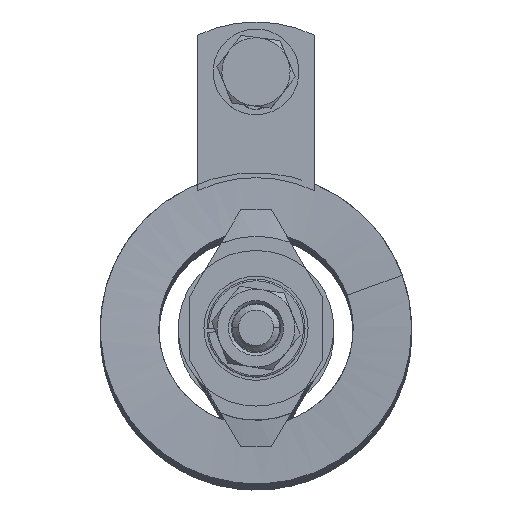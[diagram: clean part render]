
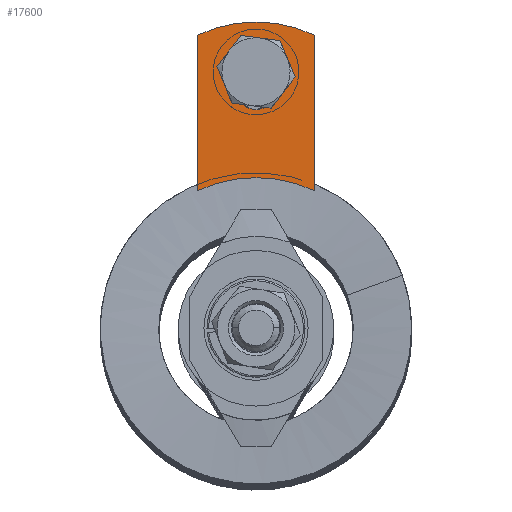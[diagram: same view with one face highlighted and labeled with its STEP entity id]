
A CAD part, top view. The second image highlights one B-rep face of the part: STEP entity #17600.
In plain terms, the highlighted planar face has unit normal (0, 0, 1).
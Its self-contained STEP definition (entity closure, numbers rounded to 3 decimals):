
#12033 = LINE ( 'NONE', #95753, #12081 ) ;
#12062 = CIRCLE ( 'NONE', #60801, 22.225 ) ;
#12079 = LINE ( 'NONE', #95782, #12084 ) ;
#12080 = CIRCLE ( 'NONE', #60802, 3.373 ) ;
#12081 = VECTOR ( 'NONE', #95721, 1000. ) ;
#12083 = CIRCLE ( 'NONE', #60803, 3.373 ) ;
#12084 = VECTOR ( 'NONE', #95749, 1000. ) ;
#12085 = LINE ( 'NONE', #95778, #12087 ) ;
#12087 = VECTOR ( 'NONE', #95774, 1000. ) ;
#12092 = CIRCLE ( 'NONE', #60805, 22.225 ) ;
#12097 = CIRCLE ( 'NONE', #60807, 22.225 ) ;
#12105 = CIRCLE ( 'NONE', #60809, 3.373 ) ;
#12181 = CIRCLE ( 'NONE', #60840, 22.225 ) ;
#12193 = LINE ( 'NONE', #98732, #12197 ) ;
#12197 = VECTOR ( 'NONE', #98736, 1000. ) ;
#13107 = ORIENTED_EDGE ( 'NONE', *, *, #22650, .T. ) ;
#13109 = ORIENTED_EDGE ( 'NONE', *, *, #22680, .T. ) ;
#13111 = ORIENTED_EDGE ( 'NONE', *, *, #22648, .T. ) ;
#13114 = ORIENTED_EDGE ( 'NONE', *, *, #22645, .T. ) ;
#13116 = ORIENTED_EDGE ( 'NONE', *, *, #22643, .T. ) ;
#13118 = ORIENTED_EDGE ( 'NONE', *, *, #22641, .T. ) ;
#13120 = ORIENTED_EDGE ( 'NONE', *, *, #22659, .T. ) ;
#13122 = ORIENTED_EDGE ( 'NONE', *, *, #22638, .T. ) ;
#13124 = ORIENTED_EDGE ( 'NONE', *, *, #22868, .T. ) ;
#13127 = ORIENTED_EDGE ( 'NONE', *, *, #22671, .T. ) ;
#13129 = ORIENTED_EDGE ( 'NONE', *, *, #22865, .T. ) ;
#13181 = EDGE_LOOP ( 'NONE', ( #13118, #13120, #13122, #13124, #13127, #13129 ) ) ;
#13261 = EDGE_LOOP ( 'NONE', ( #13107, #13109, #13111, #13114, #13116 ) ) ;
#17600 = ADVANCED_FACE ( 'NONE', ( #89703, #89712 ), #54161, .T. ) ;
#22638 = EDGE_CURVE ( 'NONE', #93470, #93536, #12062, .T. ) ;
#22641 = EDGE_CURVE ( 'NONE', #93505, #93477, #12033, .T. ) ;
#22643 = EDGE_CURVE ( 'NONE', #93539, #93488, #12080, .T. ) ;
#22645 = EDGE_CURVE ( 'NONE', #93531, #93539, #12079, .T. ) ;
#22648 = EDGE_CURVE ( 'NONE', #93474, #93531, #12083, .T. ) ;
#22650 = EDGE_CURVE ( 'NONE', #93488, #93472, #12085, .T. ) ;
#22659 = EDGE_CURVE ( 'NONE', #93477, #93470, #12092, .T. ) ;
#22671 = EDGE_CURVE ( 'NONE', #93498, #93502, #12097, .T. ) ;
#22680 = EDGE_CURVE ( 'NONE', #93472, #93474, #12105, .T. ) ;
#22865 = EDGE_CURVE ( 'NONE', #93502, #93505, #12181, .T. ) ;
#22868 = EDGE_CURVE ( 'NONE', #93536, #93498, #12193, .T. ) ;
#54155 = DIRECTION ( 'NONE',  ( 0., 0., 1. ) ) ;
#54157 = CARTESIAN_POINT ( 'NONE',  ( 0., 0., 0. ) ) ;
#54161 = PLANE ( 'NONE',  #113648 ) ;
#54165 = DIRECTION ( 'NONE',  ( 1., 0., 0. ) ) ;
#60801 = AXIS2_PLACEMENT_3D ( 'NONE', #95757, #95761, #95765 ) ;
#60802 = AXIS2_PLACEMENT_3D ( 'NONE', #95786, #95790, #95794 ) ;
#60803 = AXIS2_PLACEMENT_3D ( 'NONE', #95813, #95817, #97892 ) ;
#60805 = AXIS2_PLACEMENT_3D ( 'NONE', #97919, #97921, #97923 ) ;
#60807 = AXIS2_PLACEMENT_3D ( 'NONE', #97951, #97953, #97955 ) ;
#60809 = AXIS2_PLACEMENT_3D ( 'NONE', #97976, #97978, #97980 ) ;
#60840 = AXIS2_PLACEMENT_3D ( 'NONE', #98756, #98758, #98760 ) ;
#89703 = FACE_BOUND ( 'NONE', #13261, .T. ) ;
#89712 = FACE_OUTER_BOUND ( 'NONE', #13181, .T. ) ;
#93470 = VERTEX_POINT ( 'NONE', #99382 ) ;
#93472 = VERTEX_POINT ( 'NONE', #99331 ) ;
#93474 = VERTEX_POINT ( 'NONE', #99384 ) ;
#93477 = VERTEX_POINT ( 'NONE', #99346 ) ;
#93488 = VERTEX_POINT ( 'NONE', #99390 ) ;
#93498 = VERTEX_POINT ( 'NONE', #99396 ) ;
#93502 = VERTEX_POINT ( 'NONE', #99398 ) ;
#93505 = VERTEX_POINT ( 'NONE', #99400 ) ;
#93531 = VERTEX_POINT ( 'NONE', #99412 ) ;
#93536 = VERTEX_POINT ( 'NONE', #99414 ) ;
#93539 = VERTEX_POINT ( 'NONE', #99416 ) ;
#95721 = DIRECTION ( 'NONE',  ( -1., 0., 0. ) ) ;
#95749 = DIRECTION ( 'NONE',  ( -1., 0., 0. ) ) ;
#95753 = CARTESIAN_POINT ( 'NONE',  ( 19.05, 9.525, 0. ) ) ;
#95757 = CARTESIAN_POINT ( 'NONE',  ( -28.575, 0., 0. ) ) ;
#95761 = DIRECTION ( 'NONE',  ( 0., 0., -1. ) ) ;
#95765 = DIRECTION ( 'NONE',  ( 1., 0., 0. ) ) ;
#95774 = DIRECTION ( 'NONE',  ( 1., 0., 0. ) ) ;
#95778 = CARTESIAN_POINT ( 'NONE',  ( 0., 3.373, 0. ) ) ;
#95782 = CARTESIAN_POINT ( 'NONE',  ( 0., -3.373, 0. ) ) ;
#95786 = CARTESIAN_POINT ( 'NONE',  ( 8.136, 0., 0. ) ) ;
#95790 = DIRECTION ( 'NONE',  ( 0., 0., -1. ) ) ;
#95794 = DIRECTION ( 'NONE',  ( 1., 0., 0. ) ) ;
#95813 = CARTESIAN_POINT ( 'NONE',  ( 10.914, 0., 0. ) ) ;
#95817 = DIRECTION ( 'NONE',  ( 0., 0., -1. ) ) ;
#97892 = DIRECTION ( 'NONE',  ( 1., 0., 0. ) ) ;
#97919 = CARTESIAN_POINT ( 'NONE',  ( -28.575, 0., 0. ) ) ;
#97921 = DIRECTION ( 'NONE',  ( 0., 0., -1. ) ) ;
#97923 = DIRECTION ( 'NONE',  ( 1., 0., 0. ) ) ;
#97951 = CARTESIAN_POINT ( 'NONE',  ( -3.175, 0., 0. ) ) ;
#97953 = DIRECTION ( 'NONE',  ( 0., 0., 1. ) ) ;
#97955 = DIRECTION ( 'NONE',  ( 1., 0., 0. ) ) ;
#97976 = CARTESIAN_POINT ( 'NONE',  ( 10.914, 0., 0. ) ) ;
#97978 = DIRECTION ( 'NONE',  ( 0., 0., -1. ) ) ;
#97980 = DIRECTION ( 'NONE',  ( 1., 0., 0. ) ) ;
#98732 = CARTESIAN_POINT ( 'NONE',  ( 19.05, -9.525, 0. ) ) ;
#98736 = DIRECTION ( 'NONE',  ( 1., 0., 0. ) ) ;
#98756 = CARTESIAN_POINT ( 'NONE',  ( -3.175, 0., 0. ) ) ;
#98758 = DIRECTION ( 'NONE',  ( 0., 0., 1. ) ) ;
#98760 = DIRECTION ( 'NONE',  ( 1., 0., 0. ) ) ;
#99331 = CARTESIAN_POINT ( 'NONE',  ( 10.914, 3.373, 0. ) ) ;
#99346 = CARTESIAN_POINT ( 'NONE',  ( -8.495, 9.525, 0. ) ) ;
#99382 = CARTESIAN_POINT ( 'NONE',  ( -6.35, 0., 0. ) ) ;
#99384 = CARTESIAN_POINT ( 'NONE',  ( 14.287, 0., 0. ) ) ;
#99390 = CARTESIAN_POINT ( 'NONE',  ( 8.136, 3.373, 0. ) ) ;
#99396 = CARTESIAN_POINT ( 'NONE',  ( 16.905, -9.525, 0. ) ) ;
#99398 = CARTESIAN_POINT ( 'NONE',  ( 19.05, 0., 0. ) ) ;
#99400 = CARTESIAN_POINT ( 'NONE',  ( 16.905, 9.525, 0. ) ) ;
#99412 = CARTESIAN_POINT ( 'NONE',  ( 10.914, -3.373, 0. ) ) ;
#99414 = CARTESIAN_POINT ( 'NONE',  ( -8.495, -9.525, 0. ) ) ;
#99416 = CARTESIAN_POINT ( 'NONE',  ( 8.136, -3.373, 0. ) ) ;
#113648 = AXIS2_PLACEMENT_3D ( 'NONE', #54157, #54155, #54165 ) ;
